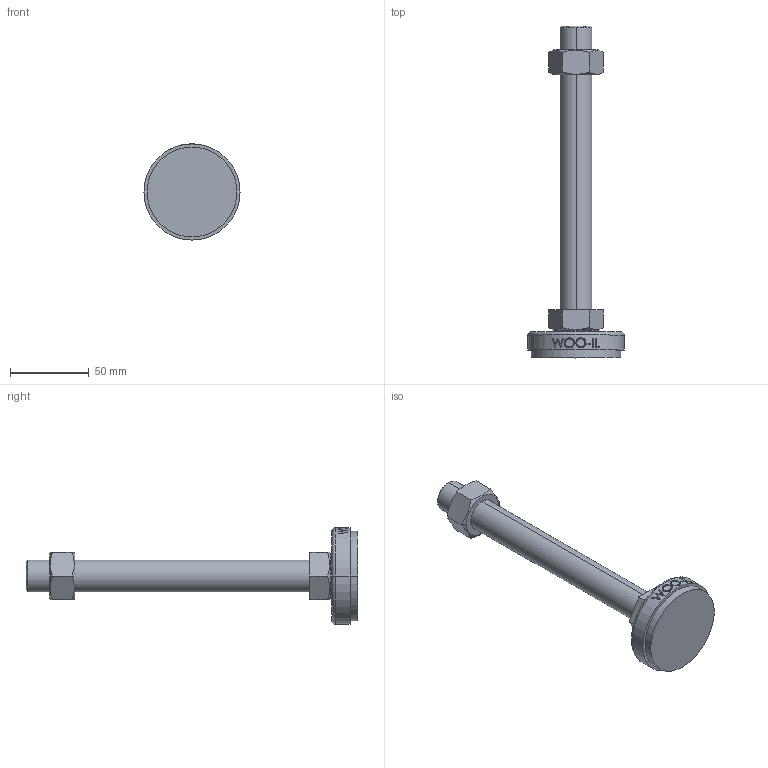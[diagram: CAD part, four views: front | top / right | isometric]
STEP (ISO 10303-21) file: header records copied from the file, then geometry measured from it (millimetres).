
FILE_DESCRIPTION (( 'STEP AP214' ), '1' );
FILE_NAME ('NS61-M20-180.step', '2021-01-11T05:46:47', ( '' ), ( '' ), 'SwSTEP 2.0', 'SolidWorks 2019', '' );
FILE_SCHEMA (( 'AUTOMOTIVE_DESIGN' ));
Length unit declared in the file: millimetre
Products named in the file (2): NS61-M20-180
Bounding box: 61 x 210.5 x 61 mm (x, y, z)
Volume: 120681.1 mm3; surface area: 26437.1 mm2
Topology: 3 solids, 3 shells, 96 faces, 223 edges, 144 vertices
Faces by surface type: plane 48, cylinder 18, bspline 16, cone 12, torus 2
Entity records: 4264 total; most frequent: CARTESIAN_POINT 2139, ORIENTED_EDGE 446, DIRECTION 381, EDGE_CURVE 223, VERTEX_POINT 144, AXIS2_PLACEMENT_3D 142, EDGE_LOOP 109, LINE 97
